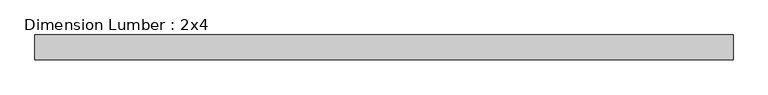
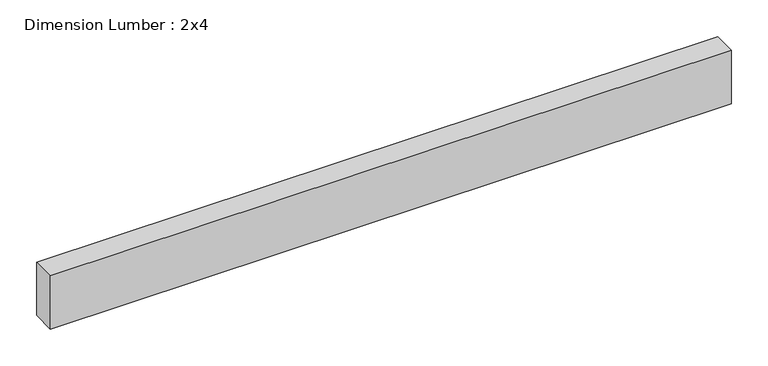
"""IFC4 building model written with IfcOpenShell, lengths in millimetres: beam geometry, Dimension Lumber : 2x4."""

from ifc_helpers import new_model, si_unit, frame, origin, place, context, project, spatial, polyline, outline, extrude, source, transform, mapped, element, save


def dimension_lumber_2x4_8f3294f6(model_context):
    return source(origin(), model_context, "Body", "SweptSolid", [
        extrude(outline(polyline([(538.4270833, 19.05), (538.4270833, -19.05), (-538.4270833, -19.05), (-538.4270833, 19.05), (538.4270833, 19.05)])), frame((0.0, 0.0, -44.45), z_axis=(0.0, 0.0, 1.0), x_axis=(1.0, 0.0, 0.0)), (0.0, 0.0, 1.0), 88.9),
    ])


if __name__ == "__main__":
    model = new_model("IFC4")
    model_context = context("Model", 3, world=origin())
    ifc_project = project(units=[si_unit("LENGTHUNIT", "METRE", prefix="MILLI")], contexts=[model_context])
    site = spatial("IfcSite", under=ifc_project)
    building = spatial("IfcBuilding", under=site)
    placement = place(None, origin())
    dimension_lumber_2x4_shape = dimension_lumber_2x4_8f3294f6(model_context)
    element("IfcBeam", 1, ObjectType="Dimension Lumber : 2x4", at=placement, inside=building, context=model_context, shape_type="MappedRepresentation", body=[
        mapped(dimension_lumber_2x4_shape, transform((0.0, 0.0, 0.0), x_axis=(1.0, 0.0, 0.0), y_axis=(0.0, 1.0, 0.0), z_axis=(0.0, 0.0, 1.0))),
    ])
    save(model, "model.ifc")
